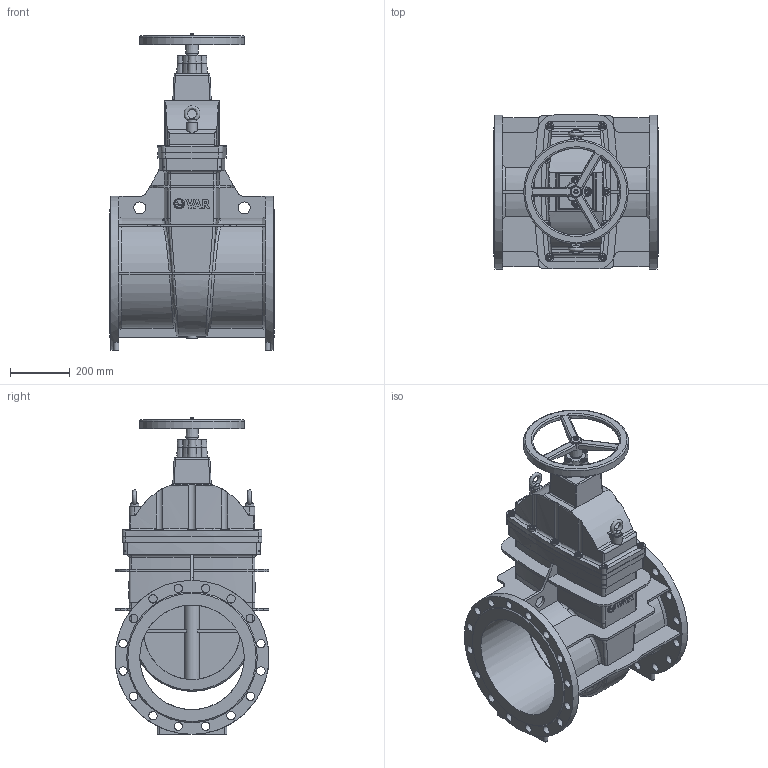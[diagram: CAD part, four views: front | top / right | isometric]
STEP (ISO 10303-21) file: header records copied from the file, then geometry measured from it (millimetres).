
FILE_DESCRIPTION(('STEP AP242'), '1');
FILE_NAME('青溻桄赅', '', ('UNSPECIFIED'), ('UNSPECIFIED'), 'C3D Converter', 'C3D Toolkit', '');
FILE_SCHEMA(('AP242_MANAGED_MODEL_BASED_3D_ENGINEERING_MIM_LF { 1 0 10303 442 1 1 4 }'));
Length unit declared in the file: millimetre
Assembly tree (25 placements, depth 2):
  (unnamed)
    (unnamed)
    (unnamed)
    (unnamed)
    (unnamed)
    (unnamed)  x2
    (unnamed)
    (unnamed)
    (unnamed)  x10
    (unnamed)  x4
    (unnamed)
    (unnamed)  x2
Bounding box: 550 x 515 x 1059.1 mm (x, y, z)
Volume: 29255144.9 mm3; surface area: 4726565.4 mm2
Topology: 28 solids, 28 shells, 1380 faces, 3470 edges, 2207 vertices
Faces by surface type: plane 614, cylinder 321, extrusion 181, cone 120, bspline 97, torus 47
Full cylindrical faces by diameter (mm): 6 x3, 10 x14, 12 x56, 18 x28, 28 x32, 35 x8, 35.64 x1, 40 x2, 52.667 x5, 290 x1, 300 x1, 323.5 x2, 340 x1, 350 x5, 381.8 x4, 403 x1, 515 x2
Entity records: 66677 total; most frequent: CARTESIAN_POINT 38150, ORIENTED_EDGE 5302, DIRECTION 4378, EDGE_CURVE 2651, VERTEX_POINT 1816, AXIS2_PLACEMENT_3D 1545, EDGE_LOOP 1463, VECTOR 1288
